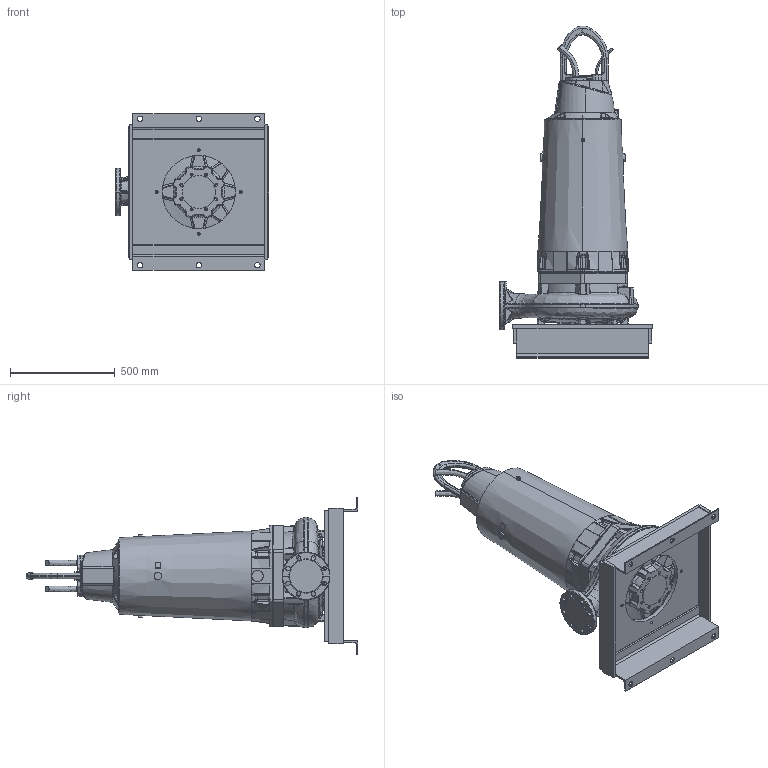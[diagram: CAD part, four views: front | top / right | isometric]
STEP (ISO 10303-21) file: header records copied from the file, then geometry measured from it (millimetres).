
FILE_DESCRIPTION (( 'STEP AP214' ), '1' );
FILE_NAME ('PE4_XFP100J-CH1_DRY_A_NG2.STEP', '2017-02-23T07:19:56', ( '' ), ( '' ), 'SwSTEP 2.0', 'SolidWorks 2017', '' );
FILE_SCHEMA (( 'AUTOMOTIVE_DESIGN' ));
Length unit declared in the file: millimetre
Products named in the file (1): PE4_XFP100J-CH1_DRY_A_NG2
Bounding box: 735 x 1585.4 x 750 mm (x, y, z)
Volume: 160155085.7 mm3; surface area: 3539409.3 mm2
Topology: 3 solids, 3 shells, 2036 faces, 5044 edges, 2990 vertices
Faces by surface type: bspline 714, cylinder 435, plane 432, cone 227, torus 160, sphere 68
Entity records: 147351 total; most frequent: CARTESIAN_POINT 82667, ORIENTED_EDGE 9960, DIRECTION 7464, EDGE_CURVE 4980, AXIS2_PLACEMENT_3D 3089, VERTEX_POINT 2990, EDGE_LOOP 2120, UNCERTAINTY_MEASURE_WITH_UNIT 2041
